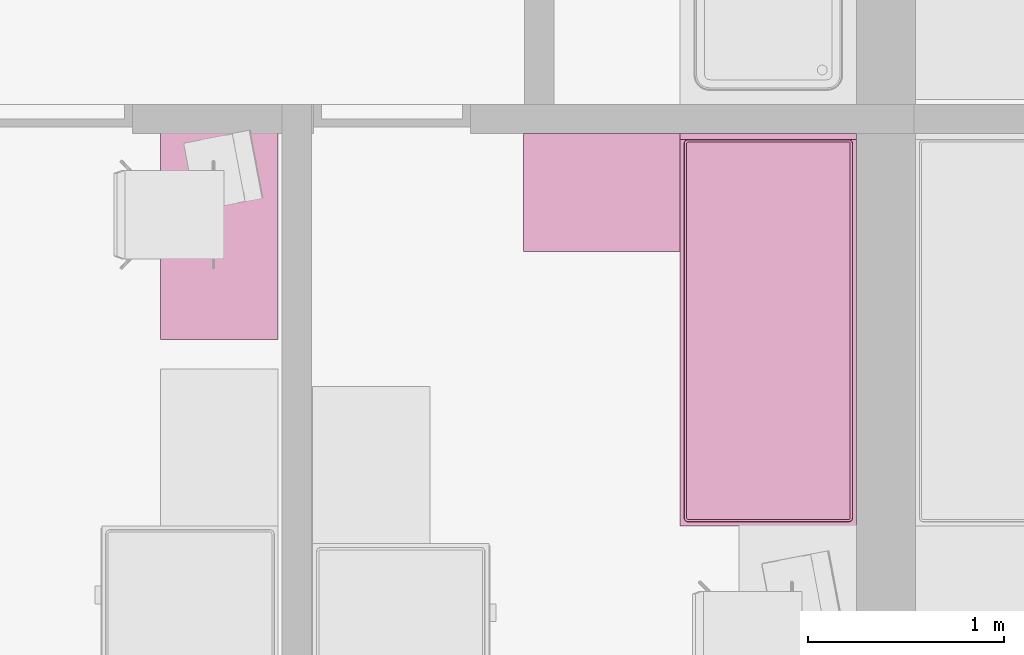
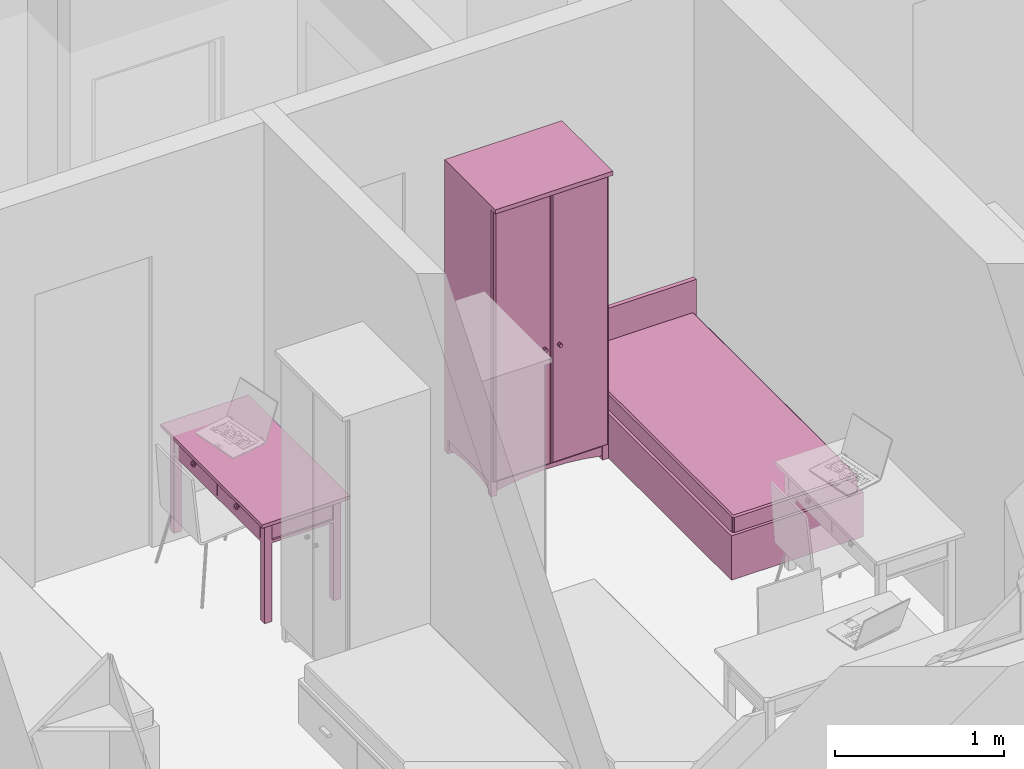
# One storey, part 104 of 165: 3 furnishings.
"""IFC2X3 building model written with IfcOpenShell, lengths in millimetres."""

from ifc_helpers import new_model, entity, si_unit, converted_unit, money_unit, direction, frame, origin_with_axes, place, context, subcontext, project, spatial, faceted_brep, source, transform, mapped, material, material_list, type_object, element, save


model = new_model("IFC2X3")

# Units and contexts
model_context = context("Model", 3, precision=1e-05, world=origin_with_axes(), true_north=direction((0.0, 1.0)))
body_context = subcontext(model_context, "Body", "Model", "MODEL_VIEW")
ifc_project = project(units=[si_unit("LENGTHUNIT", "METRE", prefix="MILLI"), si_unit("AREAUNIT", "SQUARE_METRE"), si_unit("VOLUMEUNIT", "CUBIC_METRE"), converted_unit("PLANEANGLEUNIT", "DEGREE", entity("IfcPlaneAngleMeasure", 0.0174532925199), si_unit("PLANEANGLEUNIT", "RADIAN"), dimensions=[0, 0, 0, 0, 0, 0, 0]), si_unit("SOLIDANGLEUNIT", "STERADIAN"), money_unit("USD"), converted_unit("TIMEUNIT", "Year", entity("IfcTimeMeasure", 31556926.0), si_unit("TIMEUNIT", "SECOND"), dimensions=[0, 0, 0, 0, 0, 0, 0]), si_unit("MASSUNIT", "GRAM"), si_unit("THERMODYNAMICTEMPERATUREUNIT", "DEGREE_CELSIUS"), si_unit("LUMINOUSINTENSITYUNIT", "LUMEN")], contexts=[model_context])

# Site, building, storey
site_placement = place(None, origin_with_axes())
site = spatial("IfcSite", under=ifc_project, at=site_placement, Name="Site", CompositionType="ELEMENT")
building_placement = place(site_placement, origin_with_axes())
building = spatial("IfcBuilding", under=site, at=building_placement, Name="Building", CompositionType="ELEMENT")
storey_placement = place(building_placement, frame((0.0, 0.0, 6300.0), z_axis=(0.0, 0.0, 1.0), x_axis=(1.0, 0.0, 0.0)))
storey = spatial("IfcBuildingStorey", under=building, at=storey_placement, Name="4KORRUS", CompositionType="ELEMENT", Elevation=6300.0)

# Furnishings
ifc_material = material(Name="Background")
ifc_material_list = material_list([ifc_material])
furnishing_element_type_1 = type_object("IfcFurnishingElementType", Name="Bed 19")
shared_shape_1 = source(origin_with_axes(), body_context, "Body", "Brep", [
    faceted_brep([(900.0, 1970.0, 0.0), (0.0, 1970.0, 0.0), (0.0, 2000.0, 0.0), (900.0, 2000.0, 0.0), (900.0, 1970.0, 660.0), (0.0, 1970.0, 660.0), (0.0, 2000.0, 660.0), (900.0, 2000.0, 660.0)], [[[0, 1, 2, 3]], [[1, 0, 4, 5]], [[2, 1, 5, 6]], [[3, 2, 6, 7]], [[0, 3, 7, 4]], [[5, 4, 7, 6]]]),
    faceted_brep([(900.0, 0.0, 0.0), (0.0, 0.0, 0.0), (0.0, 1970.0, 0.0), (900.0, 1970.0, 0.0), (900.0, 0.0, 320.0), (0.0, 0.0, 320.0), (0.0, 1970.0, 320.0), (900.0, 1970.0, 320.0)], [[[0, 1, 2, 3]], [[1, 0, 4, 5]], [[2, 1, 5, 6]], [[3, 2, 6, 7]], [[0, 3, 7, 4]], [[5, 4, 7, 6]]]),
    faceted_brep([(905.0, 10.0, 30.0), (900.0, 10.0, 30.0), (900.0, 695.0, 30.0), (905.0, 695.0, 30.0), (905.0, 10.0, 290.0), (900.0, 10.0, 290.0), (900.0, 695.0, 290.0), (905.0, 695.0, 290.0)], [[[0, 1, 2, 3]], [[1, 0, 4, 5]], [[2, 1, 5, 6]], [[3, 2, 6, 7]], [[0, 3, 7, 4]], [[5, 4, 7, 6]]]),
    faceted_brep([(935.0, 307.5, 150.0), (905.0, 307.5, 150.0), (905.0, 397.5, 150.0), (935.0, 397.5, 150.0), (935.0, 307.5, 170.0), (905.0, 307.5, 170.0), (905.0, 397.5, 170.0), (935.0, 397.5, 170.0)], [[[0, 1, 2, 3]], [[1, 0, 4, 5]], [[2, 1, 5, 6]], [[3, 2, 6, 7]], [[0, 3, 7, 4]], [[5, 4, 7, 6]]]),
    faceted_brep([(905.0, 705.0, 30.0), (900.0, 705.0, 30.0), (900.0, 1390.0, 30.0), (905.0, 1390.0, 30.0), (905.0, 705.0, 290.0), (900.0, 705.0, 290.0), (900.0, 1390.0, 290.0), (905.0, 1390.0, 290.0)], [[[0, 1, 2, 3]], [[1, 0, 4, 5]], [[2, 1, 5, 6]], [[3, 2, 6, 7]], [[0, 3, 7, 4]], [[5, 4, 7, 6]]]),
    faceted_brep([(935.0, 1002.5, 150.0), (905.0, 1002.5, 150.0), (905.0, 1092.5, 150.0), (935.0, 1092.5, 150.0), (935.0, 1002.5, 170.0), (905.0, 1002.5, 170.0), (905.0, 1092.5, 170.0), (935.0, 1092.5, 170.0)], [[[0, 1, 2, 3]], [[1, 0, 4, 5]], [[2, 1, 5, 6]], [[3, 2, 6, 7]], [[0, 3, 7, 4]], [[5, 4, 7, 6]]]),
    faceted_brep([(20.0, 40.0, 350.0), (20.0, 1950.0, 350.0), (21.522, 1957.654, 350.0), (25.858, 1964.142, 350.0), (32.346, 1968.478, 350.0), (40.0, 1970.0, 350.0), (860.0, 1970.0, 350.0), (867.654, 1968.478, 350.0), (874.142, 1964.142, 350.0), (878.478, 1957.654, 350.0), (880.0, 1950.0, 350.0), (880.0, 40.0, 350.0), (878.478, 32.346, 350.0), (874.142, 25.858, 350.0), (867.654, 21.522, 350.0), (860.0, 20.0, 350.0), (40.0, 20.0, 350.0), (32.346, 21.522, 350.0), (25.858, 25.858, 350.0), (21.522, 32.346, 350.0), (20.0, 40.0, 420.0), (20.0, 1950.0, 420.0), (21.522, 1957.654, 420.0), (25.858, 1964.142, 420.0), (32.346, 1968.478, 420.0), (40.0, 1970.0, 420.0), (860.0, 1970.0, 420.0), (867.654, 1968.478, 420.0), (874.142, 1964.142, 420.0), (878.478, 1957.654, 420.0), (880.0, 1950.0, 420.0), (880.0, 40.0, 420.0), (878.478, 32.346, 420.0), (874.142, 25.858, 420.0), (867.654, 21.522, 420.0), (860.0, 20.0, 420.0), (40.0, 20.0, 420.0), (32.346, 21.522, 420.0), (25.858, 25.858, 420.0), (21.522, 32.346, 420.0), (21.522, 40.15, 427.654), (21.522, 1949.85, 427.654), (22.956, 1957.06, 427.654), (26.955, 1963.045, 427.654), (32.94, 1967.044, 427.654), (40.15, 1968.478, 427.654), (859.85, 1968.478, 427.654), (867.06, 1967.044, 427.654), (873.045, 1963.045, 427.654), (877.044, 1957.06, 427.654), (878.478, 1949.85, 427.654), (878.478, 40.15, 427.654), (877.044, 32.94, 427.654), (873.045, 26.955, 427.654), (867.06, 22.956, 427.654), (859.85, 21.522, 427.654), (40.15, 21.522, 427.654), (32.94, 22.956, 427.654), (26.955, 26.955, 427.654), (22.956, 32.94, 427.654), (32.346, 41.216, 438.478), (32.346, 1948.784, 438.478), (33.152, 1952.836, 438.478), (34.759, 1955.241, 438.478), (37.164, 1956.848, 438.478), (41.216, 1957.654, 438.478), (858.784, 1957.654, 438.478), (862.836, 1956.848, 438.478), (865.241, 1955.241, 438.478), (866.848, 1952.836, 438.478), (867.654, 1948.784, 438.478), (867.654, 41.216, 438.478), (866.848, 37.164, 438.478), (865.241, 34.759, 438.478), (862.836, 33.152, 438.478), (858.784, 32.346, 438.478), (41.216, 32.346, 438.478), (37.164, 33.152, 438.478), (34.759, 34.759, 438.478), (33.152, 37.164, 438.478), (40.0, 41.97, 440.0), (40.0, 1948.03, 440.0), (40.327, 1949.673, 440.0), (40.0, 1950.0, 439.924), (41.97, 1950.0, 440.0), (858.03, 1950.0, 440.0), (859.673, 1949.673, 440.0), (860.0, 1950.0, 439.924), (860.0, 1948.03, 440.0), (860.0, 41.97, 440.0), (859.673, 40.327, 440.0), (860.0, 40.0, 439.924), (858.03, 40.0, 440.0), (41.97, 40.0, 440.0), (40.327, 40.327, 440.0), (40.0, 40.0, 439.924)], [[[0, 1, 2, 3, 4, 5, 6, 7, 8, 9, 10, 11, 12, 13, 14, 15, 16, 17, 18, 19]], [[1, 0, 20, 21]], [[2, 1, 21, 22]], [[3, 2, 22, 23]], [[4, 3, 23, 24]], [[5, 4, 24, 25]], [[6, 5, 25, 26]], [[7, 6, 26, 27]], [[8, 7, 27, 28]], [[9, 8, 28, 29]], [[10, 9, 29, 30]], [[11, 10, 30, 31]], [[12, 11, 31, 32]], [[13, 12, 32, 33]], [[14, 13, 33, 34]], [[15, 14, 34, 35]], [[16, 15, 35, 36]], [[17, 16, 36, 37]], [[18, 17, 37, 38]], [[19, 18, 38, 39]], [[0, 19, 39, 20]], [[21, 20, 40, 41]], [[22, 21, 41, 42]], [[23, 22, 42, 43]], [[24, 23, 43, 44]], [[25, 24, 44, 45]], [[26, 25, 45, 46]], [[27, 26, 46, 47]], [[28, 27, 47, 48]], [[29, 28, 48, 49]], [[30, 29, 49, 50]], [[31, 30, 50, 51]], [[32, 31, 51, 52]], [[33, 32, 52, 53]], [[34, 33, 53, 54]], [[35, 34, 54, 55]], [[36, 35, 55, 56]], [[37, 36, 56, 57]], [[38, 37, 57, 58]], [[39, 38, 58, 59]], [[20, 39, 59, 40]], [[41, 40, 60, 61]], [[42, 41, 61, 62]], [[43, 42, 62, 63]], [[44, 43, 63, 64]], [[45, 44, 64, 65]], [[46, 45, 65, 66]], [[47, 46, 66, 67]], [[48, 47, 67, 68]], [[49, 48, 68, 69]], [[50, 49, 69, 70]], [[51, 50, 70, 71]], [[52, 51, 71, 72]], [[53, 52, 72, 73]], [[54, 53, 73, 74]], [[55, 54, 74, 75]], [[56, 55, 75, 76]], [[57, 56, 76, 77]], [[58, 57, 77, 78]], [[59, 58, 78, 79]], [[40, 59, 79, 60]], [[61, 60, 80, 81]], [[62, 61, 81, 82, 83]], [[63, 62, 83]], [[64, 63, 83]], [[65, 64, 83, 82, 84]], [[66, 65, 84, 85]], [[67, 66, 85, 86, 87]], [[68, 67, 87]], [[69, 68, 87]], [[70, 69, 87, 86, 88]], [[71, 70, 88, 89]], [[72, 71, 89, 90, 91]], [[73, 72, 91]], [[74, 73, 91]], [[75, 74, 91, 90, 92]], [[76, 75, 92, 93]], [[77, 76, 93, 94, 95]], [[78, 77, 95]], [[79, 78, 95]], [[60, 79, 95, 94, 80]], [[81, 80, 94, 93, 92, 90, 89, 88, 86, 85, 84, 82]]]),
    faceted_brep([(20.0, 40.0, 350.0), (21.522, 32.346, 350.0), (25.858, 25.858, 350.0), (32.346, 21.522, 350.0), (40.0, 20.0, 350.0), (860.0, 20.0, 350.0), (867.654, 21.522, 350.0), (874.142, 25.858, 350.0), (878.478, 32.346, 350.0), (880.0, 40.0, 350.0), (880.0, 1950.0, 350.0), (878.478, 1957.654, 350.0), (874.142, 1964.142, 350.0), (867.654, 1968.478, 350.0), (860.0, 1970.0, 350.0), (40.0, 1970.0, 350.0), (32.346, 1968.478, 350.0), (25.858, 1964.142, 350.0), (21.522, 1957.654, 350.0), (20.0, 1950.0, 350.0), (20.0, 40.0, 320.0), (21.522, 32.346, 320.0), (25.858, 25.858, 320.0), (32.346, 21.522, 320.0), (40.0, 20.0, 320.0), (860.0, 20.0, 320.0), (867.654, 21.522, 320.0), (874.142, 25.858, 320.0), (878.478, 32.346, 320.0), (880.0, 40.0, 320.0), (880.0, 1950.0, 320.0), (878.478, 1957.654, 320.0), (874.142, 1964.142, 320.0), (867.654, 1968.478, 320.0), (860.0, 1970.0, 320.0), (40.0, 1970.0, 320.0), (32.346, 1968.478, 320.0), (25.858, 1964.142, 320.0), (21.522, 1957.654, 320.0), (20.0, 1950.0, 320.0)], [[[0, 1, 2, 3, 4, 5, 6, 7, 8, 9, 10, 11, 12, 13, 14, 15, 16, 17, 18, 19]], [[0, 20, 21, 1]], [[1, 21, 22, 2]], [[2, 22, 23, 3]], [[3, 23, 24, 4]], [[4, 24, 25, 5]], [[5, 25, 26, 6]], [[6, 26, 27, 7]], [[7, 27, 28, 8]], [[8, 28, 29, 9]], [[9, 29, 30, 10]], [[10, 30, 31, 11]], [[11, 31, 32, 12]], [[12, 32, 33, 13]], [[13, 33, 34, 14]], [[14, 34, 35, 15]], [[15, 35, 36, 16]], [[16, 36, 37, 17]], [[17, 37, 38, 18]], [[18, 38, 39, 19]], [[19, 39, 20, 0]], [[20, 39, 38, 37, 36, 35, 34, 33, 32, 31, 30, 29, 28, 27, 26, 25, 24, 23, 22, 21]]]),
])
furnishing_1_placement = place(storey_placement, frame((-19190.2967033, -17439.2398994, 0.0), z_axis=(0.0, 0.0, 1.0), x_axis=(1.0, 0.0, 0.0)))
element("IfcFurnishingElement", 1, at=furnishing_1_placement, inside=storey, type_object=furnishing_element_type_1, material=ifc_material_list, Name="FU - 013", context=body_context, shape_type="MappedRepresentation", body=[
    mapped(shared_shape_1, transform((0.0, 0.0, 0.0))),
])
furnishing_element_type_2 = type_object("IfcFurnishingElementType", Name="Cupboard 19")
shared_shape_2 = source(origin_with_axes(), body_context, "Body", "Brep", [
    faceted_brep([(780.0, 600.0, 120.0), (780.0, 600.0, 2050.0), (780.0, 580.0, 2050.0), (780.0, 580.0, 120.0), (20.0, 600.0, 120.0), (20.0, 600.0, 2050.0), (20.0, 580.0, 2050.0), (20.0, 580.0, 120.0)], [[[0, 1, 2, 3]], [[4, 5, 1, 0]], [[1, 5, 6, 2]], [[3, 2, 6, 7]], [[0, 3, 7, 4]], [[7, 6, 5, 4]]]),
    faceted_brep([(0.0, 50.0, 100.0), (0.0, 600.0, 100.0), (20.0, 600.0, 100.0), (20.0, 50.0, 100.0), (0.0, 50.0, 2070.0), (0.0, 600.0, 2070.0), (20.0, 600.0, 2070.0), (20.0, 50.0, 2070.0)], [[[0, 1, 2, 3]], [[0, 4, 5, 1]], [[1, 5, 6, 2]], [[2, 6, 7, 3]], [[3, 7, 4, 0]], [[7, 6, 5, 4]]]),
    faceted_brep([(780.0, 50.0, 100.0), (780.0, 600.0, 100.0), (800.0, 600.0, 100.0), (800.0, 50.0, 100.0), (780.0, 50.0, 2070.0), (780.0, 600.0, 2070.0), (800.0, 600.0, 2070.0), (800.0, 50.0, 2070.0)], [[[0, 1, 2, 3]], [[0, 4, 5, 1]], [[1, 5, 6, 2]], [[2, 6, 7, 3]], [[3, 7, 4, 0]], [[7, 6, 5, 4]]]),
    faceted_brep([(20.0, 50.0, 100.0), (20.0, 600.0, 100.0), (780.0, 600.0, 100.0), (780.0, 50.0, 100.0), (20.0, 50.0, 120.0), (20.0, 600.0, 120.0), (780.0, 600.0, 120.0), (780.0, 50.0, 120.0)], [[[0, 1, 2, 3]], [[0, 4, 5, 1]], [[1, 5, 6, 2]], [[2, 6, 7, 3]], [[3, 7, 4, 0]], [[7, 6, 5, 4]]]),
    faceted_brep([(20.0, 50.0, 2050.0), (20.0, 600.0, 2050.0), (780.0, 600.0, 2050.0), (780.0, 50.0, 2050.0), (20.0, 50.0, 2070.0), (20.0, 600.0, 2070.0), (780.0, 600.0, 2070.0), (780.0, 50.0, 2070.0)], [[[0, 1, 2, 3]], [[0, 4, 5, 1]], [[1, 5, 6, 2]], [[2, 6, 7, 3]], [[3, 7, 4, 0]], [[7, 6, 5, 4]]]),
    faceted_brep([(0.0, 600.0, 2070.0), (0.0, 0.0, 2070.0), (0.0, 0.0, 2100.0), (0.0, 600.0, 2100.0), (800.0, 600.0, 2070.0), (800.0, 0.0, 2070.0), (800.0, 0.0, 2100.0), (800.0, 600.0, 2100.0)], [[[0, 1, 2, 3]], [[0, 4, 5, 1]], [[1, 5, 6, 2]], [[3, 2, 6, 7]], [[4, 0, 3, 7]], [[5, 4, 7, 6]]]),
    faceted_brep([(760.0, 590.0, 25.0), (760.0, 570.0, 25.0), (640.962, 570.0, 45.8), (640.962, 590.0, 45.8), (760.0, 590.0, 100.0), (760.0, 570.0, 100.0), (40.0, 570.0, 100.0), (40.0, 570.0, 25.0), (159.038, 570.0, 45.8), (279.23, 570.0, 58.32), (400.0, 570.0, 62.5), (520.77, 570.0, 58.32), (520.77, 590.0, 58.32), (400.0, 590.0, 62.5), (279.23, 590.0, 58.32), (159.038, 590.0, 45.8), (40.0, 590.0, 25.0), (40.0, 590.0, 100.0)], [[[0, 1, 2, 3]], [[4, 5, 1, 0]], [[1, 5, 6, 7, 8, 9, 10, 11, 2]], [[3, 2, 11, 12]], [[0, 3, 12, 13, 14, 15, 16, 17, 4]], [[17, 6, 5, 4]], [[16, 7, 6, 17]], [[15, 8, 7, 16]], [[14, 9, 8, 15]], [[13, 10, 9, 14]], [[12, 11, 10, 13]]]),
    faceted_brep([(760.0, 80.0, 25.0), (760.0, 60.0, 25.0), (640.962, 60.0, 45.8), (640.962, 80.0, 45.8), (760.0, 80.0, 100.0), (760.0, 60.0, 100.0), (40.0, 60.0, 100.0), (40.0, 60.0, 25.0), (159.038, 60.0, 45.8), (279.23, 60.0, 58.32), (400.0, 60.0, 62.5), (520.77, 60.0, 58.32), (520.77, 80.0, 58.32), (400.0, 80.0, 62.5), (279.23, 80.0, 58.32), (159.038, 80.0, 45.8), (40.0, 80.0, 25.0), (40.0, 80.0, 100.0)], [[[0, 1, 2, 3]], [[4, 5, 1, 0]], [[1, 5, 6, 7, 8, 9, 10, 11, 2]], [[3, 2, 11, 12]], [[0, 3, 12, 13, 14, 15, 16, 17, 4]], [[17, 6, 5, 4]], [[16, 7, 6, 17]], [[15, 8, 7, 16]], [[14, 9, 8, 15]], [[13, 10, 9, 14]], [[12, 11, 10, 13]]]),
    faceted_brep([(790.0, 90.0, 25.0), (770.0, 90.0, 25.0), (770.0, 141.266, 38.072), (790.0, 141.266, 38.072), (790.0, 90.0, 100.0), (770.0, 90.0, 100.0), (770.0, 560.0, 100.0), (770.0, 560.0, 25.0), (770.0, 508.734, 38.072), (770.0, 456.752, 47.92), (770.0, 404.257, 54.508), (770.0, 351.453, 57.808), (770.0, 298.547, 57.808), (770.0, 245.743, 54.508), (770.0, 193.248, 47.92), (790.0, 193.248, 47.92), (790.0, 245.743, 54.508), (790.0, 298.547, 57.808), (790.0, 351.453, 57.808), (790.0, 404.257, 54.508), (790.0, 456.752, 47.92), (790.0, 508.734, 38.072), (790.0, 560.0, 25.0), (790.0, 560.0, 100.0)], [[[0, 1, 2, 3]], [[4, 5, 1, 0]], [[1, 5, 6, 7, 8, 9, 10, 11, 12, 13, 14, 2]], [[3, 2, 14, 15]], [[0, 3, 15, 16, 17, 18, 19, 20, 21, 22, 23, 4]], [[23, 6, 5, 4]], [[22, 7, 6, 23]], [[21, 8, 7, 22]], [[20, 9, 8, 21]], [[19, 10, 9, 20]], [[18, 11, 10, 19]], [[17, 12, 11, 18]], [[16, 13, 12, 17]], [[15, 14, 13, 16]]]),
    faceted_brep([(30.0, 90.0, 25.0), (10.0, 90.0, 25.0), (10.0, 141.266, 38.072), (30.0, 141.266, 38.072), (30.0, 90.0, 100.0), (10.0, 90.0, 100.0), (10.0, 560.0, 100.0), (10.0, 560.0, 25.0), (10.0, 508.734, 38.072), (10.0, 456.752, 47.92), (10.0, 404.257, 54.508), (10.0, 351.453, 57.808), (10.0, 298.547, 57.808), (10.0, 245.743, 54.508), (10.0, 193.248, 47.92), (30.0, 193.248, 47.92), (30.0, 245.743, 54.508), (30.0, 298.547, 57.808), (30.0, 351.453, 57.808), (30.0, 404.257, 54.508), (30.0, 456.752, 47.92), (30.0, 508.734, 38.072), (30.0, 560.0, 25.0), (30.0, 560.0, 100.0)], [[[0, 1, 2, 3]], [[4, 5, 1, 0]], [[1, 5, 6, 7, 8, 9, 10, 11, 12, 13, 14, 2]], [[3, 2, 14, 15]], [[0, 3, 15, 16, 17, 18, 19, 20, 21, 22, 23, 4]], [[23, 6, 5, 4]], [[22, 7, 6, 23]], [[21, 8, 7, 22]], [[20, 9, 8, 21]], [[19, 10, 9, 20]], [[18, 11, 10, 19]], [[17, 12, 11, 18]], [[16, 13, 12, 17]], [[15, 14, 13, 16]]]),
    faceted_brep([(760.0, 560.0, 0.0), (760.0, 560.0, 100.0), (760.0, 600.0, 100.0), (760.0, 600.0, 0.0), (800.0, 560.0, 0.0), (800.0, 560.0, 100.0), (800.0, 600.0, 100.0), (800.0, 600.0, 0.0)], [[[0, 1, 2, 3]], [[4, 5, 1, 0]], [[1, 5, 6, 2]], [[3, 2, 6, 7]], [[0, 3, 7, 4]], [[7, 6, 5, 4]]]),
    faceted_brep([(0.0, 560.0, 0.0), (0.0, 560.0, 100.0), (0.0, 600.0, 100.0), (0.0, 600.0, 0.0), (40.0, 560.0, 0.0), (40.0, 560.0, 100.0), (40.0, 600.0, 100.0), (40.0, 600.0, 0.0)], [[[0, 1, 2, 3]], [[4, 5, 1, 0]], [[1, 5, 6, 2]], [[3, 2, 6, 7]], [[0, 3, 7, 4]], [[7, 6, 5, 4]]]),
    faceted_brep([(760.0, 50.0, 0.0), (760.0, 50.0, 100.0), (760.0, 90.0, 100.0), (760.0, 90.0, 0.0), (800.0, 50.0, 0.0), (800.0, 50.0, 100.0), (800.0, 90.0, 100.0), (800.0, 90.0, 0.0)], [[[0, 1, 2, 3]], [[4, 5, 1, 0]], [[1, 5, 6, 2]], [[3, 2, 6, 7]], [[0, 3, 7, 4]], [[7, 6, 5, 4]]]),
    faceted_brep([(0.0, 50.0, 0.0), (0.0, 50.0, 100.0), (0.0, 90.0, 100.0), (0.0, 90.0, 0.0), (40.0, 50.0, 0.0), (40.0, 50.0, 100.0), (40.0, 90.0, 100.0), (40.0, 90.0, 0.0)], [[[0, 1, 2, 3]], [[4, 5, 1, 0]], [[1, 5, 6, 2]], [[3, 2, 6, 7]], [[0, 3, 7, 4]], [[7, 6, 5, 4]]]),
    faceted_brep([(780.0, 580.0, 587.5), (780.0, 580.0, 607.5), (780.0, 50.0, 607.5), (780.0, 50.0, 587.5), (20.0, 580.0, 587.5), (20.0, 580.0, 607.5), (20.0, 50.0, 607.5), (20.0, 50.0, 587.5)], [[[0, 1, 2, 3]], [[4, 5, 1, 0]], [[1, 5, 6, 2]], [[3, 2, 6, 7]], [[0, 3, 7, 4]], [[7, 6, 5, 4]]]),
    faceted_brep([(780.0, 580.0, 1075.0), (780.0, 580.0, 1095.0), (780.0, 50.0, 1095.0), (780.0, 50.0, 1075.0), (20.0, 580.0, 1075.0), (20.0, 580.0, 1095.0), (20.0, 50.0, 1095.0), (20.0, 50.0, 1075.0)], [[[0, 1, 2, 3]], [[4, 5, 1, 0]], [[1, 5, 6, 2]], [[3, 2, 6, 7]], [[0, 3, 7, 4]], [[7, 6, 5, 4]]]),
    faceted_brep([(780.0, 580.0, 1562.5), (780.0, 580.0, 1582.5), (780.0, 50.0, 1582.5), (780.0, 50.0, 1562.5), (20.0, 580.0, 1562.5), (20.0, 580.0, 1582.5), (20.0, 50.0, 1582.5), (20.0, 50.0, 1562.5)], [[[0, 1, 2, 3]], [[4, 5, 1, 0]], [[1, 5, 6, 2]], [[3, 2, 6, 7]], [[0, 3, 7, 4]], [[7, 6, 5, 4]]]),
    faceted_brep([(789.5, 50.0, 110.5), (400.5, 50.0, 110.5), (400.5, 50.0, 2059.5), (789.5, 50.0, 2059.5), (789.5, 40.0, 110.5), (400.5, 40.0, 110.5), (400.5, 40.0, 2059.5), (789.5, 40.0, 2059.5), (779.5, 30.0, 120.5), (410.5, 30.0, 120.5), (410.5, 30.0, 2049.5), (779.5, 30.0, 2049.5)], [[[0, 1, 2, 3]], [[0, 4, 5, 1]], [[1, 5, 6, 2]], [[2, 6, 7, 3]], [[3, 7, 4, 0]], [[4, 8, 9, 5]], [[5, 9, 10, 6]], [[6, 10, 11, 7]], [[7, 11, 8, 4]], [[10, 9, 8, 11]]]),
    faceted_brep([(399.5, 50.0, 110.5), (10.5, 50.0, 110.5), (10.5, 50.0, 2059.5), (399.5, 50.0, 2059.5), (399.5, 40.0, 110.5), (10.5, 40.0, 110.5), (10.5, 40.0, 2059.5), (399.5, 40.0, 2059.5), (389.5, 30.0, 120.5), (20.5, 30.0, 120.5), (20.5, 30.0, 2049.5), (389.5, 30.0, 2049.5)], [[[0, 1, 2, 3]], [[0, 4, 5, 1]], [[1, 5, 6, 2]], [[2, 6, 7, 3]], [[3, 7, 4, 0]], [[4, 8, 9, 5]], [[5, 9, 10, 6]], [[6, 10, 11, 7]], [[7, 11, 8, 4]], [[10, 9, 8, 11]]]),
    faceted_brep([(339.608, 30.0, 954.0), (338.0, 30.0, 960.0), (339.608, 30.0, 966.0), (344.0, 30.0, 970.392), (350.0, 30.0, 972.0), (356.0, 30.0, 970.392), (360.392, 30.0, 966.0), (362.0, 30.0, 960.0), (360.392, 30.0, 954.0), (356.0, 30.0, 949.608), (350.0, 30.0, 948.0), (344.0, 30.0, 949.608), (339.608, 5.0, 954.0), (338.0, 5.0, 960.0), (339.608, 5.0, 966.0), (344.0, 5.0, 970.392), (350.0, 5.0, 972.0), (356.0, 5.0, 970.392), (360.392, 5.0, 966.0), (362.0, 5.0, 960.0), (360.392, 5.0, 954.0), (356.0, 5.0, 949.608), (350.0, 5.0, 948.0), (344.0, 5.0, 949.608)], [[[0, 1, 2, 3, 4, 5, 6, 7, 8, 9, 10, 11]], [[0, 12, 13, 1]], [[1, 13, 14, 2]], [[2, 14, 15, 3]], [[3, 15, 16, 4]], [[4, 16, 17, 5]], [[5, 17, 18, 6]], [[6, 18, 19, 7]], [[7, 19, 20, 8]], [[8, 20, 21, 9]], [[9, 21, 22, 10]], [[10, 22, 23, 11]], [[11, 23, 12, 0]], [[12, 23, 22, 21, 20, 19, 18, 17, 16, 15, 14, 13]]]),
    faceted_brep([(460.392, 30.0, 954.0), (456.0, 30.0, 949.608), (450.0, 30.0, 948.0), (444.0, 30.0, 949.608), (439.608, 30.0, 954.0), (438.0, 30.0, 960.0), (439.608, 30.0, 966.0), (444.0, 30.0, 970.392), (450.0, 30.0, 972.0), (456.0, 30.0, 970.392), (460.392, 30.0, 966.0), (462.0, 30.0, 960.0), (460.392, 5.0, 954.0), (456.0, 5.0, 949.608), (450.0, 5.0, 948.0), (444.0, 5.0, 949.608), (439.608, 5.0, 954.0), (438.0, 5.0, 960.0), (439.608, 5.0, 966.0), (444.0, 5.0, 970.392), (450.0, 5.0, 972.0), (456.0, 5.0, 970.392), (460.392, 5.0, 966.0), (462.0, 5.0, 960.0)], [[[0, 1, 2, 3, 4, 5, 6, 7, 8, 9, 10, 11]], [[1, 0, 12, 13]], [[2, 1, 13, 14]], [[3, 2, 14, 15]], [[4, 3, 15, 16]], [[5, 4, 16, 17]], [[6, 5, 17, 18]], [[7, 6, 18, 19]], [[8, 7, 19, 20]], [[9, 8, 20, 21]], [[10, 9, 21, 22]], [[11, 10, 22, 23]], [[0, 11, 23, 12]], [[12, 23, 22, 21, 20, 19, 18, 17, 16, 15, 14, 13]]]),
])
furnishing_2_placement = place(storey_placement, frame((-19990.2967033, -16039.2398994, 0.0), z_axis=(0.0, 0.0, 1.0), x_axis=(1.0, 0.0, 0.0)))
element("IfcFurnishingElement", 2, at=furnishing_2_placement, inside=storey, type_object=furnishing_element_type_2, material=ifc_material_list, Name="FU - 014", context=body_context, shape_type="MappedRepresentation", body=[
    mapped(shared_shape_2, transform((0.0, 0.0, 0.0))),
])
furnishing_element_type_3 = type_object("IfcFurnishingElementType", Name="Rectangular Table 01 19")
shared_shape_3 = source(origin_with_axes(), body_context, "Body", "Brep", [
    faceted_brep([(90.0, 40.0, 0.0), (40.0, 40.0, 0.0), (40.0, 90.0, 0.0), (90.0, 90.0, 0.0), (90.0, 40.0, 725.0), (40.0, 40.0, 725.0), (40.0, 90.0, 725.0), (90.0, 90.0, 725.0)], [[[0, 1, 2, 3]], [[1, 0, 4, 5]], [[2, 1, 5, 6]], [[3, 2, 6, 7]], [[0, 3, 7, 4]], [[5, 4, 7, 6]]]),
    faceted_brep([(1160.0, 40.0, 0.0), (1110.0, 40.0, 0.0), (1110.0, 90.0, 0.0), (1160.0, 90.0, 0.0), (1160.0, 40.0, 725.0), (1110.0, 40.0, 725.0), (1110.0, 90.0, 725.0), (1160.0, 90.0, 725.0)], [[[0, 1, 2, 3]], [[1, 0, 4, 5]], [[2, 1, 5, 6]], [[3, 2, 6, 7]], [[0, 3, 7, 4]], [[5, 4, 7, 6]]]),
    faceted_brep([(90.0, 510.0, 0.0), (40.0, 510.0, 0.0), (40.0, 560.0, 0.0), (90.0, 560.0, 0.0), (90.0, 510.0, 725.0), (40.0, 510.0, 725.0), (40.0, 560.0, 725.0), (90.0, 560.0, 725.0)], [[[0, 1, 2, 3]], [[1, 0, 4, 5]], [[2, 1, 5, 6]], [[3, 2, 6, 7]], [[0, 3, 7, 4]], [[5, 4, 7, 6]]]),
    faceted_brep([(1160.0, 510.0, 0.0), (1110.0, 510.0, 0.0), (1110.0, 560.0, 0.0), (1160.0, 560.0, 0.0), (1160.0, 510.0, 725.0), (1110.0, 510.0, 725.0), (1110.0, 560.0, 725.0), (1160.0, 560.0, 725.0)], [[[0, 1, 2, 3]], [[1, 0, 4, 5]], [[2, 1, 5, 6]], [[3, 2, 6, 7]], [[0, 3, 7, 4]], [[5, 4, 7, 6]]]),
    faceted_brep([(1160.0, 40.0, 565.0), (40.0, 40.0, 565.0), (40.0, 560.0, 565.0), (1160.0, 560.0, 565.0), (1160.0, 40.0, 585.0), (40.0, 40.0, 585.0), (40.0, 560.0, 585.0), (1160.0, 560.0, 585.0)], [[[0, 1, 2, 3]], [[1, 0, 4, 5]], [[2, 1, 5, 6]], [[3, 2, 6, 7]], [[0, 3, 7, 4]], [[5, 4, 7, 6]]]),
    faceted_brep([(1110.0, 52.5, 585.0), (90.0, 52.5, 585.0), (90.0, 77.5, 585.0), (1110.0, 77.5, 585.0), (1110.0, 52.5, 745.0), (90.0, 52.5, 745.0), (90.0, 77.5, 745.0), (1110.0, 77.5, 745.0)], [[[0, 1, 2, 3]], [[1, 0, 4, 5]], [[2, 1, 5, 6]], [[3, 2, 6, 7]], [[0, 3, 7, 4]], [[5, 4, 7, 6]]]),
    faceted_brep([(77.5, 90.0, 585.0), (52.5, 90.0, 585.0), (52.5, 510.0, 585.0), (77.5, 510.0, 585.0), (77.5, 90.0, 745.0), (52.5, 90.0, 745.0), (52.5, 510.0, 745.0), (77.5, 510.0, 745.0)], [[[0, 1, 2, 3]], [[1, 0, 4, 5]], [[2, 1, 5, 6]], [[3, 2, 6, 7]], [[0, 3, 7, 4]], [[5, 4, 7, 6]]]),
    faceted_brep([(90.0, 547.5, 585.0), (1110.0, 547.5, 585.0), (1110.0, 522.5, 585.0), (90.0, 522.5, 585.0), (90.0, 547.5, 745.0), (1110.0, 547.5, 745.0), (1110.0, 522.5, 745.0), (90.0, 522.5, 745.0)], [[[0, 1, 2, 3]], [[1, 0, 4, 5]], [[2, 1, 5, 6]], [[3, 2, 6, 7]], [[0, 3, 7, 4]], [[5, 4, 7, 6]]]),
    faceted_brep([(1122.5, 510.0, 585.0), (1147.5, 510.0, 585.0), (1147.5, 90.0, 585.0), (1122.5, 90.0, 585.0), (1122.5, 510.0, 745.0), (1147.5, 510.0, 745.0), (1147.5, 90.0, 745.0), (1122.5, 90.0, 745.0)], [[[0, 1, 2, 3]], [[1, 0, 4, 5]], [[2, 1, 5, 6]], [[3, 2, 6, 7]], [[0, 3, 7, 4]], [[5, 4, 7, 6]]]),
    faceted_brep([(597.5, 40.0, 585.0), (95.0, 40.0, 585.0), (95.0, 60.0, 585.0), (597.5, 60.0, 585.0), (597.5, 40.0, 745.0), (95.0, 40.0, 745.0), (95.0, 60.0, 745.0), (597.5, 60.0, 745.0)], [[[0, 1, 2, 3]], [[1, 0, 4, 5]], [[2, 1, 5, 6]], [[3, 2, 6, 7]], [[0, 3, 7, 4]], [[5, 4, 7, 6]]]),
    faceted_brep([(1105.0, 40.0, 585.0), (602.5, 40.0, 585.0), (602.5, 60.0, 585.0), (1105.0, 60.0, 585.0), (1105.0, 40.0, 745.0), (602.5, 40.0, 745.0), (602.5, 60.0, 745.0), (1105.0, 60.0, 745.0)], [[[0, 1, 2, 3]], [[1, 0, 4, 5]], [[2, 1, 5, 6]], [[3, 2, 6, 7]], [[0, 3, 7, 4]], [[5, 4, 7, 6]]]),
    faceted_brep([(354.91, 40.0, 660.0), (351.25, 40.0, 656.34), (346.25, 40.0, 655.0), (341.25, 40.0, 656.34), (337.59, 40.0, 660.0), (336.25, 40.0, 665.0), (337.59, 40.0, 670.0), (341.25, 40.0, 673.66), (346.25, 40.0, 675.0), (351.25, 40.0, 673.66), (354.91, 40.0, 670.0), (356.25, 40.0, 665.0), (354.91, 25.0, 660.0), (351.25, 25.0, 656.34), (346.25, 25.0, 655.0), (341.25, 25.0, 656.34), (337.59, 25.0, 660.0), (336.25, 25.0, 665.0), (337.59, 25.0, 670.0), (341.25, 25.0, 673.66), (346.25, 25.0, 675.0), (351.25, 25.0, 673.66), (354.91, 25.0, 670.0), (356.25, 25.0, 665.0)], [[[0, 1, 2, 3, 4, 5, 6, 7, 8, 9, 10, 11]], [[1, 0, 12, 13]], [[2, 1, 13, 14]], [[3, 2, 14, 15]], [[4, 3, 15, 16]], [[5, 4, 16, 17]], [[6, 5, 17, 18]], [[7, 6, 18, 19]], [[8, 7, 19, 20]], [[9, 8, 20, 21]], [[10, 9, 21, 22]], [[11, 10, 22, 23]], [[0, 11, 23, 12]], [[12, 23, 22, 21, 20, 19, 18, 17, 16, 15, 14, 13]]]),
    faceted_brep([(356.25, 12.01, 665.0), (346.25, 10.0, 665.0), (354.91, 12.01, 660.0), (354.91, 12.01, 670.0), (351.25, 12.01, 656.34), (363.571, 17.5, 665.0), (361.25, 17.5, 656.34), (351.25, 12.01, 673.66), (361.25, 17.5, 673.66), (346.25, 12.01, 655.0), (354.91, 17.5, 650.0), (366.25, 25.0, 665.0), (363.571, 25.0, 655.0), (346.25, 12.01, 675.0), (354.91, 17.5, 680.0), (363.571, 25.0, 675.0), (341.25, 12.01, 656.34), (346.25, 17.5, 647.679), (356.25, 25.0, 647.679), (346.25, 25.0, 645.0), (336.25, 25.0, 647.679), (328.929, 25.0, 655.0), (326.25, 25.0, 665.0), (328.929, 25.0, 675.0), (336.25, 25.0, 682.321), (346.25, 25.0, 685.0), (356.25, 25.0, 682.321), (341.25, 12.01, 673.66), (346.25, 17.5, 682.321), (337.59, 12.01, 660.0), (337.59, 17.5, 650.0), (331.25, 17.5, 656.34), (328.929, 17.5, 665.0), (331.25, 17.5, 673.66), (337.59, 17.5, 680.0), (337.59, 12.01, 670.0), (336.25, 12.01, 665.0)], [[[0, 1, 2]], [[3, 1, 0]], [[2, 1, 4]], [[5, 0, 2, 6]], [[7, 1, 3]], [[8, 3, 0, 5]], [[4, 1, 9]], [[6, 2, 4, 10]], [[11, 5, 6, 12]], [[13, 1, 7]], [[14, 7, 3, 8]], [[15, 8, 5, 11]], [[9, 1, 16]], [[10, 4, 9, 17]], [[12, 6, 10, 18]], [[12, 18, 19, 20, 21, 22, 23, 24, 25, 26, 15, 11]], [[27, 1, 13]], [[28, 13, 7, 14]], [[26, 14, 8, 15]], [[16, 1, 29]], [[17, 9, 16, 30]], [[18, 10, 17, 19]], [[19, 17, 30, 20]], [[20, 30, 31, 21]], [[21, 31, 32, 22]], [[22, 32, 33, 23]], [[23, 33, 34, 24]], [[24, 34, 28, 25]], [[25, 28, 14, 26]], [[35, 1, 27]], [[34, 27, 13, 28]], [[29, 1, 36]], [[30, 16, 29, 31]], [[31, 29, 36, 32]], [[32, 36, 35, 33]], [[33, 35, 27, 34]], [[36, 1, 35]]]),
    faceted_brep([(862.41, 40.0, 660.0), (858.75, 40.0, 656.34), (853.75, 40.0, 655.0), (848.75, 40.0, 656.34), (845.09, 40.0, 660.0), (843.75, 40.0, 665.0), (845.09, 40.0, 670.0), (848.75, 40.0, 673.66), (853.75, 40.0, 675.0), (858.75, 40.0, 673.66), (862.41, 40.0, 670.0), (863.75, 40.0, 665.0), (862.41, 25.0, 660.0), (858.75, 25.0, 656.34), (853.75, 25.0, 655.0), (848.75, 25.0, 656.34), (845.09, 25.0, 660.0), (843.75, 25.0, 665.0), (845.09, 25.0, 670.0), (848.75, 25.0, 673.66), (853.75, 25.0, 675.0), (858.75, 25.0, 673.66), (862.41, 25.0, 670.0), (863.75, 25.0, 665.0)], [[[0, 1, 2, 3, 4, 5, 6, 7, 8, 9, 10, 11]], [[1, 0, 12, 13]], [[2, 1, 13, 14]], [[3, 2, 14, 15]], [[4, 3, 15, 16]], [[5, 4, 16, 17]], [[6, 5, 17, 18]], [[7, 6, 18, 19]], [[8, 7, 19, 20]], [[9, 8, 20, 21]], [[10, 9, 21, 22]], [[11, 10, 22, 23]], [[0, 11, 23, 12]], [[12, 23, 22, 21, 20, 19, 18, 17, 16, 15, 14, 13]]]),
    faceted_brep([(863.75, 12.01, 665.0), (853.75, 10.0, 665.0), (862.41, 12.01, 660.0), (862.41, 12.01, 670.0), (858.75, 12.01, 656.34), (871.071, 17.5, 665.0), (868.75, 17.5, 656.34), (858.75, 12.01, 673.66), (868.75, 17.5, 673.66), (853.75, 12.01, 655.0), (862.41, 17.5, 650.0), (873.75, 25.0, 665.0), (871.071, 25.0, 655.0), (853.75, 12.01, 675.0), (862.41, 17.5, 680.0), (871.071, 25.0, 675.0), (848.75, 12.01, 656.34), (853.75, 17.5, 647.679), (863.75, 25.0, 647.679), (853.75, 25.0, 645.0), (843.75, 25.0, 647.679), (836.429, 25.0, 655.0), (833.75, 25.0, 665.0), (836.429, 25.0, 675.0), (843.75, 25.0, 682.321), (853.75, 25.0, 685.0), (863.75, 25.0, 682.321), (848.75, 12.01, 673.66), (853.75, 17.5, 682.321), (845.09, 12.01, 660.0), (845.09, 17.5, 650.0), (838.75, 17.5, 656.34), (836.429, 17.5, 665.0), (838.75, 17.5, 673.66), (845.09, 17.5, 680.0), (845.09, 12.01, 670.0), (843.75, 12.01, 665.0)], [[[0, 1, 2]], [[3, 1, 0]], [[2, 1, 4]], [[5, 0, 2, 6]], [[7, 1, 3]], [[8, 3, 0, 5]], [[4, 1, 9]], [[6, 2, 4, 10]], [[11, 5, 6, 12]], [[13, 1, 7]], [[14, 7, 3, 8]], [[15, 8, 5, 11]], [[9, 1, 16]], [[10, 4, 9, 17]], [[12, 6, 10, 18]], [[12, 18, 19, 20, 21, 22, 23, 24, 25, 26, 15, 11]], [[27, 1, 13]], [[28, 13, 7, 14]], [[26, 14, 8, 15]], [[16, 1, 29]], [[17, 9, 16, 30]], [[18, 10, 17, 19]], [[19, 17, 30, 20]], [[20, 30, 31, 21]], [[21, 31, 32, 22]], [[22, 32, 33, 23]], [[23, 33, 34, 24]], [[24, 34, 28, 25]], [[25, 28, 14, 26]], [[35, 1, 27]], [[34, 27, 13, 28]], [[29, 1, 36]], [[30, 16, 29, 31]], [[31, 29, 36, 32]], [[32, 36, 35, 33]], [[33, 35, 27, 34]], [[36, 1, 35]]]),
    faceted_brep([(1200.0, 0.0, 725.0), (0.0, 0.0, 725.0), (0.0, 600.0, 725.0), (1200.0, 600.0, 725.0), (1200.0, 0.0, 750.0), (0.0, 0.0, 750.0), (0.0, 600.0, 750.0), (1200.0, 600.0, 750.0)], [[[0, 1, 2, 3]], [[1, 0, 4, 5]], [[2, 1, 5, 6]], [[3, 2, 6, 7]], [[0, 3, 7, 4]], [[5, 4, 7, 6]]]),
])
furnishing_3_placement = place(storey_placement, frame((-21840.2967033, -15289.2398994, 0.0), z_axis=(0.0, 0.0, 1.0), x_axis=(0.0, -1.0, 0.0)))
element("IfcFurnishingElement", 3, at=furnishing_3_placement, inside=storey, type_object=furnishing_element_type_3, material=ifc_material_list, Name="FU - 011", context=body_context, shape_type="MappedRepresentation", body=[
    mapped(shared_shape_3, transform((0.0, 0.0, 0.0))),
])

save(model, "model.ifc")
